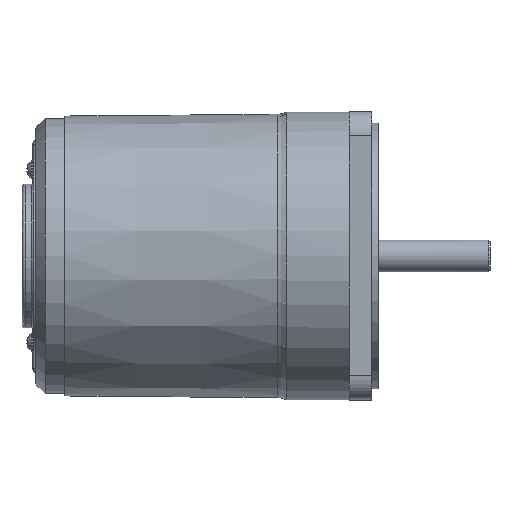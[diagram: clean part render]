
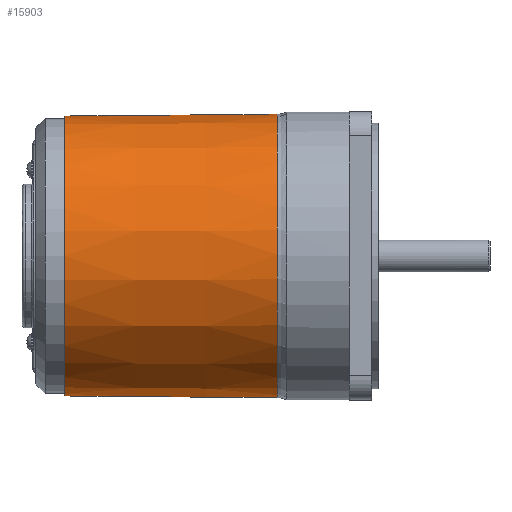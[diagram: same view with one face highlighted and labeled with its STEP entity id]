
A CAD part, top view. The second image highlights one B-rep face of the part: STEP entity #15903.
In plain terms, the highlighted conical face has half-angle 0.48 degrees and reference radius 44.029 mm.
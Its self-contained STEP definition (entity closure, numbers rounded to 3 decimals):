
#174=B_SPLINE_CURVE_WITH_KNOTS('',3,(#24728,#24729,#24730,#24731),
 .UNSPECIFIED.,.F.,.F.,(4,4),(3.256,3.306),
 .UNSPECIFIED.);
#175=B_SPLINE_CURVE_WITH_KNOTS('',3,(#24733,#24734,#24735,#24736),
 .UNSPECIFIED.,.F.,.F.,(4,4),(-3.256,0.),.UNSPECIFIED.);
#179=B_SPLINE_CURVE_WITH_KNOTS('',3,(#24815,#24816,#24817,#24818),
 .UNSPECIFIED.,.F.,.F.,(4,4),(-6.954,-3.698),
 .UNSPECIFIED.);
#180=B_SPLINE_CURVE_WITH_KNOTS('',3,(#24819,#24820,#24821,#24822),
 .UNSPECIFIED.,.F.,.F.,(4,4),(3.648,3.698),
 .UNSPECIFIED.);
#286=CONICAL_SURFACE('',#16938,44.029,0.48);
#695=FACE_BOUND('',#2668,.T.);
#939=CIRCLE('',#16922,44.031);
#947=CIRCLE('',#16939,44.308);
#948=CIRCLE('',#16940,43.75);
#1708=FACE_OUTER_BOUND('',#2667,.T.);
#2667=EDGE_LOOP('',(#10679,#10680,#10681,#10682,#10683,#10684));
#2668=EDGE_LOOP('',(#10685));
#6417=VERTEX_POINT('',#24378);
#6423=VERTEX_POINT('',#24492);
#6438=VERTEX_POINT('',#24727);
#6439=VERTEX_POINT('',#24732);
#6444=VERTEX_POINT('',#24812);
#6445=VERTEX_POINT('',#24814);
#6449=VERTEX_POINT('',#24875);
#8028=EDGE_CURVE('',#6417,#6423,#939,.T.);
#8051=EDGE_CURVE('',#6438,#6423,#174,.T.);
#8052=EDGE_CURVE('',#6438,#6439,#175,.T.);
#8062=EDGE_CURVE('',#6444,#6445,#179,.T.);
#8063=EDGE_CURVE('',#6417,#6445,#180,.T.);
#8070=EDGE_CURVE('',#6439,#6444,#947,.T.);
#8071=EDGE_CURVE('',#6449,#6449,#948,.T.);
#10679=ORIENTED_EDGE('',*,*,#8063,.T.);
#10680=ORIENTED_EDGE('',*,*,#8062,.F.);
#10681=ORIENTED_EDGE('',*,*,#8070,.F.);
#10682=ORIENTED_EDGE('',*,*,#8052,.F.);
#10683=ORIENTED_EDGE('',*,*,#8051,.T.);
#10684=ORIENTED_EDGE('',*,*,#8028,.F.);
#10685=ORIENTED_EDGE('',*,*,#8071,.T.);
#15903=ADVANCED_FACE('',(#1708,#695),#286,.T.);
#16922=AXIS2_PLACEMENT_3D('',#24493,#18945,#18946);
#16938=AXIS2_PLACEMENT_3D('',#24873,#18989,#18990);
#16939=AXIS2_PLACEMENT_3D('',#24874,#18991,#18992);
#16940=AXIS2_PLACEMENT_3D('',#24876,#18993,#18994);
#18945=DIRECTION('center_axis',(1.,0.,0.));
#18946=DIRECTION('ref_axis',(0.,0.,-1.));
#18989=DIRECTION('center_axis',(1.,0.,0.));
#18990=DIRECTION('ref_axis',(0.,1.,0.));
#18991=DIRECTION('center_axis',(1.,0.,0.));
#18992=DIRECTION('ref_axis',(0.,1.,0.));
#18993=DIRECTION('center_axis',(1.,0.,0.));
#18994=DIRECTION('ref_axis',(0.,1.,0.));
#24378=CARTESIAN_POINT('',(42.504,-29.21,-32.947));
#24492=CARTESIAN_POINT('',(42.504,29.21,-32.947));
#24493=CARTESIAN_POINT('Origin',(42.504,0.,
0.));
#24727=CARTESIAN_POINT('',(43.,29.21,-32.952));
#24728=CARTESIAN_POINT('Ctrl Pts',(43.,29.21,-32.952));
#24729=CARTESIAN_POINT('Ctrl Pts',(42.835,29.21,-32.95));
#24730=CARTESIAN_POINT('Ctrl Pts',(42.669,29.21,-32.949));
#24731=CARTESIAN_POINT('Ctrl Pts',(42.504,29.21,-32.947));
#24732=CARTESIAN_POINT('',(75.559,29.222,-33.306));
#24733=CARTESIAN_POINT('Ctrl Pts',(43.,29.21,-32.952));
#24734=CARTESIAN_POINT('Ctrl Pts',(53.853,29.214,-33.07));
#24735=CARTESIAN_POINT('Ctrl Pts',(64.706,29.218,-33.188));
#24736=CARTESIAN_POINT('Ctrl Pts',(75.559,29.222,-33.306));
#24812=CARTESIAN_POINT('',(75.559,-29.222,-33.306));
#24814=CARTESIAN_POINT('',(43.,-29.21,-32.952));
#24815=CARTESIAN_POINT('Ctrl Pts',(75.559,-29.222,-33.306));
#24816=CARTESIAN_POINT('Ctrl Pts',(64.706,-29.218,-33.188));
#24817=CARTESIAN_POINT('Ctrl Pts',(53.853,-29.214,-33.07));
#24818=CARTESIAN_POINT('Ctrl Pts',(43.,-29.21,-32.952));
#24819=CARTESIAN_POINT('Ctrl Pts',(42.504,-29.21,-32.947));
#24820=CARTESIAN_POINT('Ctrl Pts',(42.669,-29.21,-32.949));
#24821=CARTESIAN_POINT('Ctrl Pts',(42.835,-29.21,-32.95));
#24822=CARTESIAN_POINT('Ctrl Pts',(43.,-29.21,-32.952));
#24873=CARTESIAN_POINT('Origin',(42.279,0.,
0.));
#24874=CARTESIAN_POINT('Origin',(75.559,0.,
0.));
#24875=CARTESIAN_POINT('',(9.,43.75,0.));
#24876=CARTESIAN_POINT('Origin',(9.,0.,
0.));
